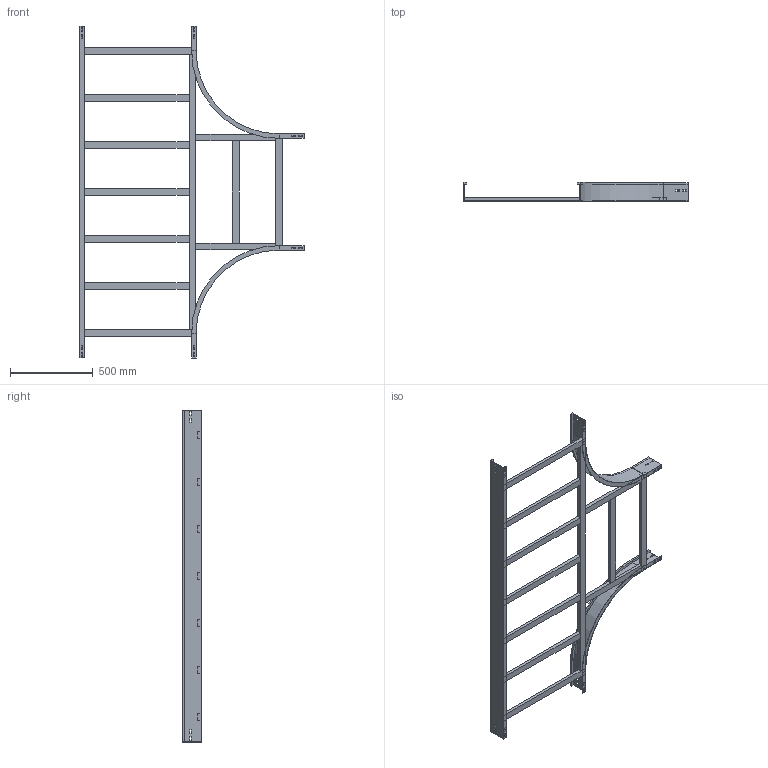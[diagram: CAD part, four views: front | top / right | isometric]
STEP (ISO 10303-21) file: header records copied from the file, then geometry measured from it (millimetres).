
FILE_DESCRIPTION (( 'STEP AP214' ), '1' );
FILE_NAME ('15B5J700.step', '2025-02-21T15:51:05', ( '' ), ( '' ), 'SwSTEP 2.0', 'SolidWorks 2023', '' );
FILE_SCHEMA (( 'AUTOMOTIVE_DESIGN' ));
Length unit declared in the file: millimetre
Products named in the file (8): LONGH.RETT_H112.5_R500+700; TRAVERSINO_LONG._R500+700; TRAVERSINO_COPPIA_700; TRAVERSINO_INTERMEDIO_R500+700; TRAVERSINO_700; LONGH.INTERNO 90°_H112.5_R500; 15B5J700; TRAVERSINO_VERT_R500
Assembly tree (15 placements, depth 2):
  15B5J700
    LONGH.INTERNO 90°_H112.5_R500  x2
    LONGH.RETT_H112.5_R500+700
    TRAVERSINO_700  x3
    TRAVERSINO_LONG._R500+700
    TRAVERSINO_INTERMEDIO_R500+700  x5
    TRAVERSINO_VERT_R500  x2
    TRAVERSINO_COPPIA_700
Bounding box: 1350 x 112.5 x 2000 mm (x, y, z)
Volume: 8918221.3 mm3; surface area: 2360537.8 mm2
Topology: 15 solids, 15 shells, 230 faces, 568 edges, 368 vertices
Faces by surface type: plane 222, cylinder 8
Entity records: 4217 total; most frequent: CARTESIAN_POINT 696, ORIENTED_EDGE 664, DIRECTION 636, EDGE_CURVE 332, VECTOR 324, LINE 324, VERTEX_POINT 216, EDGE_LOOP 162
